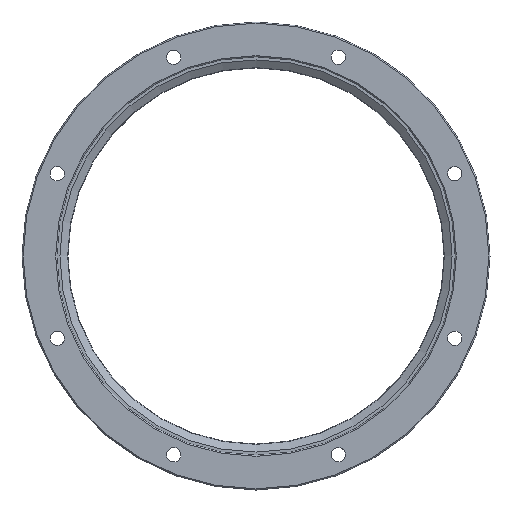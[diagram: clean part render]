
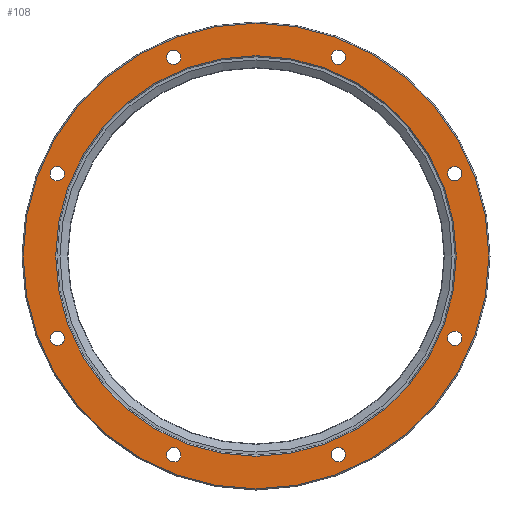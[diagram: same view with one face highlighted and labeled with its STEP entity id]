
A CAD part, front view. The second image highlights one B-rep face of the part: STEP entity #108.
In plain terms, the highlighted planar face has unit normal (0, -1, 0).
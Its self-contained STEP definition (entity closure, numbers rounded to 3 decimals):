
#108=ADVANCED_FACE('',(#183,#184,#185,#186,#187,#188,#189,#190,#191,#192),#193,.T.);
#183=FACE_BOUND('',#307,.T.);
#184=FACE_BOUND('',#308,.T.);
#185=FACE_BOUND('',#309,.T.);
#186=FACE_BOUND('',#310,.T.);
#187=FACE_BOUND('',#311,.T.);
#188=FACE_BOUND('',#312,.T.);
#189=FACE_BOUND('',#313,.T.);
#190=FACE_BOUND('',#314,.T.);
#191=FACE_OUTER_BOUND('',#315,.T.);
#192=FACE_BOUND('',#316,.T.);
#193=PLANE('',#317);
#307=EDGE_LOOP('',(#461));
#308=EDGE_LOOP('',(#462));
#309=EDGE_LOOP('',(#463));
#310=EDGE_LOOP('',(#464));
#311=EDGE_LOOP('',(#465));
#312=EDGE_LOOP('',(#466));
#313=EDGE_LOOP('',(#467));
#314=EDGE_LOOP('',(#468));
#315=EDGE_LOOP('',(#469));
#316=EDGE_LOOP('',(#470));
#317=AXIS2_PLACEMENT_3D('',#471,#472,#473);
#461=ORIENTED_EDGE('',*,*,#580,.F.);
#462=ORIENTED_EDGE('',*,*,#582,.F.);
#463=ORIENTED_EDGE('',*,*,#584,.F.);
#464=ORIENTED_EDGE('',*,*,#586,.F.);
#465=ORIENTED_EDGE('',*,*,#588,.F.);
#466=ORIENTED_EDGE('',*,*,#590,.F.);
#467=ORIENTED_EDGE('',*,*,#592,.F.);
#468=ORIENTED_EDGE('',*,*,#597,.F.);
#469=ORIENTED_EDGE('',*,*,#575,.T.);
#470=ORIENTED_EDGE('',*,*,#576,.T.);
#471=CARTESIAN_POINT('',(74.5,0.0,0.0));
#472=DIRECTION('',(0.0,-1.0,0.0));
#473=DIRECTION('',(0.0,0.0,-1.0));
#575=EDGE_CURVE('',#620,#620,#621,.T.);
#576=EDGE_CURVE('',#622,#622,#623,.F.);
#580=EDGE_CURVE('',#630,#630,#631,.T.);
#582=EDGE_CURVE('',#634,#634,#635,.T.);
#584=EDGE_CURVE('',#638,#638,#639,.T.);
#586=EDGE_CURVE('',#642,#642,#643,.T.);
#588=EDGE_CURVE('',#646,#646,#647,.T.);
#590=EDGE_CURVE('',#650,#650,#651,.T.);
#592=EDGE_CURVE('',#654,#654,#655,.T.);
#597=EDGE_CURVE('',#664,#664,#665,.T.);
#620=VERTEX_POINT('',#708);
#621=CIRCLE('',#709,80.1);
#622=VERTEX_POINT('',#710);
#623=CIRCLE('',#711,68.9);
#630=VERTEX_POINT('',#718);
#631=CIRCLE('',#719,2.5);
#634=VERTEX_POINT('',#722);
#635=CIRCLE('',#723,2.5);
#638=VERTEX_POINT('',#726);
#639=CIRCLE('',#727,2.5);
#642=VERTEX_POINT('',#730);
#643=CIRCLE('',#731,2.5);
#646=VERTEX_POINT('',#734);
#647=CIRCLE('',#735,2.5);
#650=VERTEX_POINT('',#738);
#651=CIRCLE('',#739,2.5);
#654=VERTEX_POINT('',#742);
#655=CIRCLE('',#743,2.5);
#664=VERTEX_POINT('',#752);
#665=CIRCLE('',#753,2.5);
#708=CARTESIAN_POINT('',(0.0,0.0,-80.1));
#709=AXIS2_PLACEMENT_3D('',#797,#798,#799);
#710=CARTESIAN_POINT('',(0.,0.0,-68.9));
#711=AXIS2_PLACEMENT_3D('',#800,#801,#802);
#718=CARTESIAN_POINT('',(-26.551,0.0,70.135));
#719=AXIS2_PLACEMENT_3D('',#812,#813,#814);
#722=CARTESIAN_POINT('',(-68.367,0.0,30.819));
#723=AXIS2_PLACEMENT_3D('',#818,#819,#820);
#726=CARTESIAN_POINT('',(-70.135,0.0,-26.551));
#727=AXIS2_PLACEMENT_3D('',#824,#825,#826);
#730=CARTESIAN_POINT('',(-30.819,0.0,-68.367));
#731=AXIS2_PLACEMENT_3D('',#830,#831,#832);
#734=CARTESIAN_POINT('',(26.551,0.0,-70.135));
#735=AXIS2_PLACEMENT_3D('',#836,#837,#838);
#738=CARTESIAN_POINT('',(68.367,0.0,-30.819));
#739=AXIS2_PLACEMENT_3D('',#842,#843,#844);
#742=CARTESIAN_POINT('',(70.135,0.0,26.551));
#743=AXIS2_PLACEMENT_3D('',#848,#849,#850);
#752=CARTESIAN_POINT('',(30.819,0.0,68.367));
#753=AXIS2_PLACEMENT_3D('',#863,#864,#865);
#797=CARTESIAN_POINT('',(0.0,0.0,0.0));
#798=DIRECTION('',(0.0,-1.0,0.0));
#799=DIRECTION('',(0.0,0.0,-1.0));
#800=CARTESIAN_POINT('',(0.0,0.0,0.0));
#801=DIRECTION('',(0.0,-1.0,0.0));
#802=DIRECTION('',(0.0,0.0,-1.0));
#812=CARTESIAN_POINT('',(-28.319,0.0,68.367));
#813=DIRECTION('',(0.0,-1.0,0.0));
#814=DIRECTION('',(0.707,0.0,0.707));
#818=CARTESIAN_POINT('',(-68.367,0.0,28.319));
#819=DIRECTION('',(0.0,-1.0,0.0));
#820=DIRECTION('',(0.,0.0,1.0));
#824=CARTESIAN_POINT('',(-68.367,0.0,-28.319));
#825=DIRECTION('',(0.0,-1.0,0.0));
#826=DIRECTION('',(-0.707,0.0,0.707));
#830=CARTESIAN_POINT('',(-28.319,0.0,-68.367));
#831=DIRECTION('',(0.0,-1.0,-0.0));
#832=DIRECTION('',(-1.0,0.0,0.));
#836=CARTESIAN_POINT('',(28.319,0.0,-68.367));
#837=DIRECTION('',(0.0,-1.0,-0.0));
#838=DIRECTION('',(-0.707,0.0,-0.707));
#842=CARTESIAN_POINT('',(68.367,0.0,-28.319));
#843=DIRECTION('',(0.0,-1.0,0.0));
#844=DIRECTION('',(0.,0.0,-1.0));
#848=CARTESIAN_POINT('',(68.367,0.0,28.319));
#849=DIRECTION('',(0.0,-1.0,0.0));
#850=DIRECTION('',(0.707,0.0,-0.707));
#863=CARTESIAN_POINT('',(28.319,0.0,68.367));
#864=DIRECTION('',(0.0,-1.0,0.0));
#865=DIRECTION('',(1.0,0.0,0.0));
